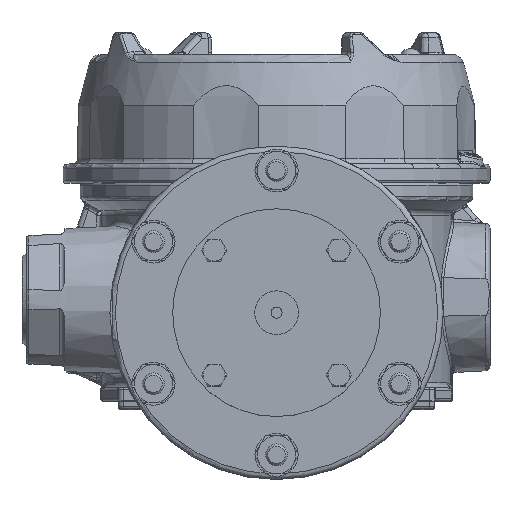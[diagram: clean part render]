
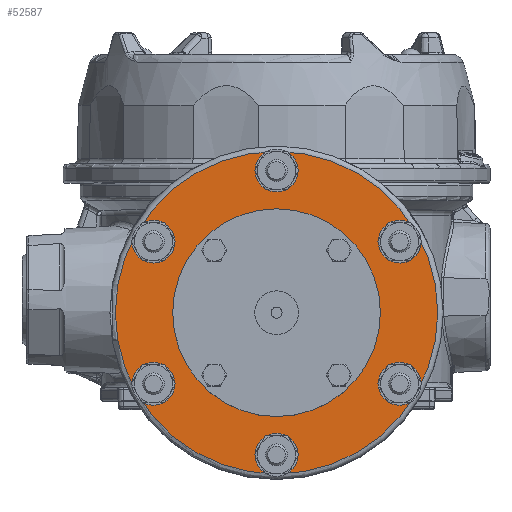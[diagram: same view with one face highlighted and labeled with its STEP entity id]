
A CAD part, top view. The second image highlights one B-rep face of the part: STEP entity #52587.
In plain terms, the highlighted planar face has unit normal (0, 0, 1).
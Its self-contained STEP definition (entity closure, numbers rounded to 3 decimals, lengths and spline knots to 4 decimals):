
#779 = DIRECTION ( 'NONE',  ( 0., 1., 0. ) ) ;
#1343 = AXIS2_PLACEMENT_3D ( 'NONE', #40970, #35956, #779 ) ;
#2027 = VERTEX_POINT ( 'NONE', #54520 ) ;
#7595 = CARTESIAN_POINT ( 'NONE',  ( 1.2943, -0.8778, 6.4029 ) ) ;
#8622 = DIRECTION ( 'NONE',  ( 0., -1., 0. ) ) ;
#8727 = DIRECTION ( 'NONE',  ( 0., 0., 1. ) ) ;
#9397 = CARTESIAN_POINT ( 'NONE',  ( -1.4073, -0.682, 6.4029 ) ) ;
#10368 = DIRECTION ( 'NONE',  ( 0., 0., 1. ) ) ;
#11136 = FACE_OUTER_BOUND ( 'NONE', #15101, .T. ) ;
#13538 = EDGE_CURVE ( 'NONE', #26518, #26518, #47569, .T. ) ;
#15101 = EDGE_LOOP ( 'NONE', ( #40661 ) ) ;
#16451 = EDGE_LOOP ( 'NONE', ( #34401 ) ) ;
#16635 = CARTESIAN_POINT ( 'NONE',  ( 1.4073, 0.8125, 6.4029 ) ) ;
#16753 = CIRCLE ( 'NONE', #43925, 0.1305 ) ;
#17241 = CARTESIAN_POINT ( 'NONE',  ( 0., 1.625, 6.4029 ) ) ;
#18059 = EDGE_CURVE ( 'NONE', #56896, #56896, #36564, .T. ) ;
#19062 = VERTEX_POINT ( 'NONE', #19360 ) ;
#19360 = CARTESIAN_POINT ( 'NONE',  ( 0., 1.843, 6.4029 ) ) ;
#19379 = ORIENTED_EDGE ( 'NONE', *, *, #23483, .F. ) ;
#20222 = PLANE ( 'NONE',  #27455 ) ;
#20510 = DIRECTION ( 'NONE',  ( 0., 1., 0. ) ) ;
#20612 = AXIS2_PLACEMENT_3D ( 'NONE', #27363, #10368, #32924 ) ;
#21154 = EDGE_LOOP ( 'NONE', ( #19379 ) ) ;
#21356 = DIRECTION ( 'NONE',  ( 0.866, -0.5, 0. ) ) ;
#22143 = AXIS2_PLACEMENT_3D ( 'NONE', #54022, #49627, #52851 ) ;
#23324 = ORIENTED_EDGE ( 'NONE', *, *, #36535, .F. ) ;
#23483 = EDGE_CURVE ( 'NONE', #25532, #25532, #53646, .T. ) ;
#23902 = DIRECTION ( 'NONE',  ( -0.866, -0.5, 0. ) ) ;
#24599 = FACE_BOUND ( 'NONE', #33636, .T. ) ;
#25532 = VERTEX_POINT ( 'NONE', #56313 ) ;
#25753 = AXIS2_PLACEMENT_3D ( 'NONE', #48335, #39542, #34839 ) ;
#26127 = EDGE_LOOP ( 'NONE', ( #27727 ) ) ;
#26518 = VERTEX_POINT ( 'NONE', #34458 ) ;
#27363 = CARTESIAN_POINT ( 'NONE',  ( 0., 0., 6.4029 ) ) ;
#27417 = AXIS2_PLACEMENT_3D ( 'NONE', #38638, #35392, #35675 ) ;
#27455 = AXIS2_PLACEMENT_3D ( 'NONE', #38090, #42793, #20510 ) ;
#27727 = ORIENTED_EDGE ( 'NONE', *, *, #29085, .F. ) ;
#29085 = EDGE_CURVE ( 'NONE', #49564, #49564, #32282, .T. ) ;
#30898 = DIRECTION ( 'NONE',  ( 0., 0., 1. ) ) ;
#32282 = CIRCLE ( 'NONE', #1343, 0.1305 ) ;
#32924 = DIRECTION ( 'NONE',  ( 0., 1., 0. ) ) ;
#33402 = FACE_BOUND ( 'NONE', #52231, .T. ) ;
#33636 = EDGE_LOOP ( 'NONE', ( #53437 ) ) ;
#34401 = ORIENTED_EDGE ( 'NONE', *, *, #13538, .F. ) ;
#34458 = CARTESIAN_POINT ( 'NONE',  ( 1.4073, 0.682, 6.4029 ) ) ;
#34839 = DIRECTION ( 'NONE',  ( -0.866, 0.5, 0. ) ) ;
#35378 = AXIS2_PLACEMENT_3D ( 'NONE', #16635, #30898, #8622 ) ;
#35392 = DIRECTION ( 'NONE',  ( 0., 0., 1. ) ) ;
#35675 = DIRECTION ( 'NONE',  ( 0., 1., 0. ) ) ;
#35956 = DIRECTION ( 'NONE',  ( 0., 0., 1. ) ) ;
#36237 = CARTESIAN_POINT ( 'NONE',  ( 1.4073, -0.8125, 6.4029 ) ) ;
#36535 = EDGE_CURVE ( 'NONE', #2027, #2027, #51032, .T. ) ;
#36564 = CIRCLE ( 'NONE', #20612, 1.1875 ) ;
#37746 = AXIS2_PLACEMENT_3D ( 'NONE', #17241, #8727, #21356 ) ;
#37797 = FACE_BOUND ( 'NONE', #21154, .T. ) ;
#38090 = CARTESIAN_POINT ( 'NONE',  ( -1.1875, 0., 6.4029 ) ) ;
#38638 = CARTESIAN_POINT ( 'NONE',  ( 0., 0., 6.4029 ) ) ;
#39041 = ORIENTED_EDGE ( 'NONE', *, *, #44129, .F. ) ;
#39542 = DIRECTION ( 'NONE',  ( 0., 0., 1. ) ) ;
#40661 = ORIENTED_EDGE ( 'NONE', *, *, #40859, .T. ) ;
#40859 = EDGE_CURVE ( 'NONE', #19062, #19062, #48022, .T. ) ;
#40920 = CIRCLE ( 'NONE', #22143, 0.1305 ) ;
#40970 = CARTESIAN_POINT ( 'NONE',  ( -1.4073, -0.8125, 6.4029 ) ) ;
#42793 = DIRECTION ( 'NONE',  ( 0., 0., 1. ) ) ;
#43362 = FACE_BOUND ( 'NONE', #55675, .T. ) ;
#43925 = AXIS2_PLACEMENT_3D ( 'NONE', #36237, #54116, #23902 ) ;
#44129 = EDGE_CURVE ( 'NONE', #47476, #47476, #16753, .T. ) ;
#47185 = FACE_BOUND ( 'NONE', #50493, .T. ) ;
#47476 = VERTEX_POINT ( 'NONE', #7595 ) ;
#47569 = CIRCLE ( 'NONE', #35378, 0.1305 ) ;
#48022 = CIRCLE ( 'NONE', #27417, 1.843 ) ;
#48335 = CARTESIAN_POINT ( 'NONE',  ( 0., -1.625, 6.4029 ) ) ;
#49564 = VERTEX_POINT ( 'NONE', #9397 ) ;
#49627 = DIRECTION ( 'NONE',  ( 0., 0., 1. ) ) ;
#50493 = EDGE_LOOP ( 'NONE', ( #39041 ) ) ;
#51032 = CIRCLE ( 'NONE', #25753, 0.1305 ) ;
#51288 = FACE_BOUND ( 'NONE', #26127, .T. ) ;
#51637 = CARTESIAN_POINT ( 'NONE',  ( 0., 1.1875, 6.4029 ) ) ;
#52065 = EDGE_CURVE ( 'NONE', #53017, #53017, #40920, .T. ) ;
#52231 = EDGE_LOOP ( 'NONE', ( #23324 ) ) ;
#52587 = ADVANCED_FACE ( 'NONE', ( #43362, #37797, #55669, #47185, #33402, #51288, #11136, #24599 ), #20222, .T. ) ;
#52714 = CARTESIAN_POINT ( 'NONE',  ( -1.2943, 0.8777, 6.4029 ) ) ;
#52851 = DIRECTION ( 'NONE',  ( 0.866, 0.5, 0. ) ) ;
#53017 = VERTEX_POINT ( 'NONE', #52714 ) ;
#53437 = ORIENTED_EDGE ( 'NONE', *, *, #18059, .F. ) ;
#53646 = CIRCLE ( 'NONE', #37746, 0.1305 ) ;
#54022 = CARTESIAN_POINT ( 'NONE',  ( -1.4073, 0.8125, 6.4029 ) ) ;
#54116 = DIRECTION ( 'NONE',  ( 0., 0., 1. ) ) ;
#54520 = CARTESIAN_POINT ( 'NONE',  ( -0.113, -1.5598, 6.4029 ) ) ;
#55669 = FACE_BOUND ( 'NONE', #16451, .T. ) ;
#55675 = EDGE_LOOP ( 'NONE', ( #57187 ) ) ;
#56313 = CARTESIAN_POINT ( 'NONE',  ( 0.113, 1.5597, 6.4029 ) ) ;
#56896 = VERTEX_POINT ( 'NONE', #51637 ) ;
#57187 = ORIENTED_EDGE ( 'NONE', *, *, #52065, .F. ) ;
